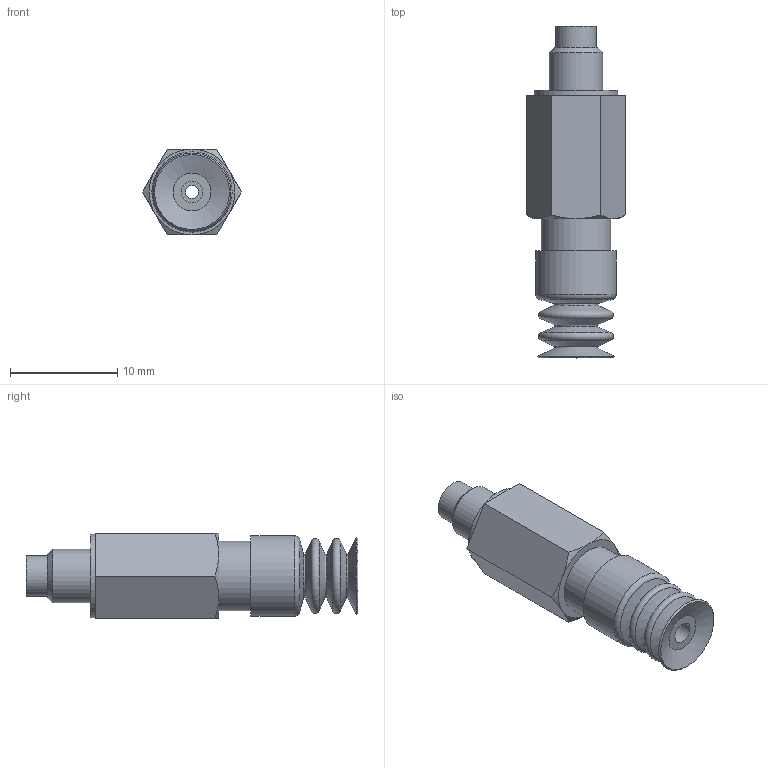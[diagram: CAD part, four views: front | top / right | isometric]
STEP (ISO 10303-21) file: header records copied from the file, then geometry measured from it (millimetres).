
FILE_DESCRIPTION(('STEP AP203'),'1');
FILE_NAME('.stp','2025-04-02T06:16:39',(' '),(' '),'Spatial InterOp 3D',' ',' ');
FILE_SCHEMA(('CONFIG_CONTROL_DESIGN'));
Length unit declared in the file: millimetre
Products named in the file (4): BPSS-L3-BPCG-7-※; BPSS-7-L3-M; BPSS-7-L3-F; BPCG-7-※
Assembly tree (3 placements, depth 2):
  BPSS-L3-BPCG-7-※
    BPSS-7-L3-M
    BPSS-7-L3-F
    BPCG-7-※
Bounding box: 9.24 x 31 x 8 mm (x, y, z)
Volume: 1048.6 mm3; surface area: 1760.7 mm2
Topology: 3 solids, 3 shells, 62 faces, 113 edges, 67 vertices
Faces by surface type: plane 22, cylinder 15, cone 15, torus 10
Full cylindrical faces by diameter (mm): 1.2 x1, 2 x1, 2.4 x2, 3.4 x1, 3.8 x1, 4 x2, 5 x1, 6 x2, 6.5 x2, 7.5 x1, 7.8 x1
Entity records: 1554 total; most frequent: DIRECTION 254, CARTESIAN_POINT 236, ORIENTED_EDGE 158, AXIS2_PLACEMENT_3D 121, EDGE_LOOP 112, FACE_OUTER_BOUND 87, EDGE_CURVE 79, VERTEX_POINT 67
